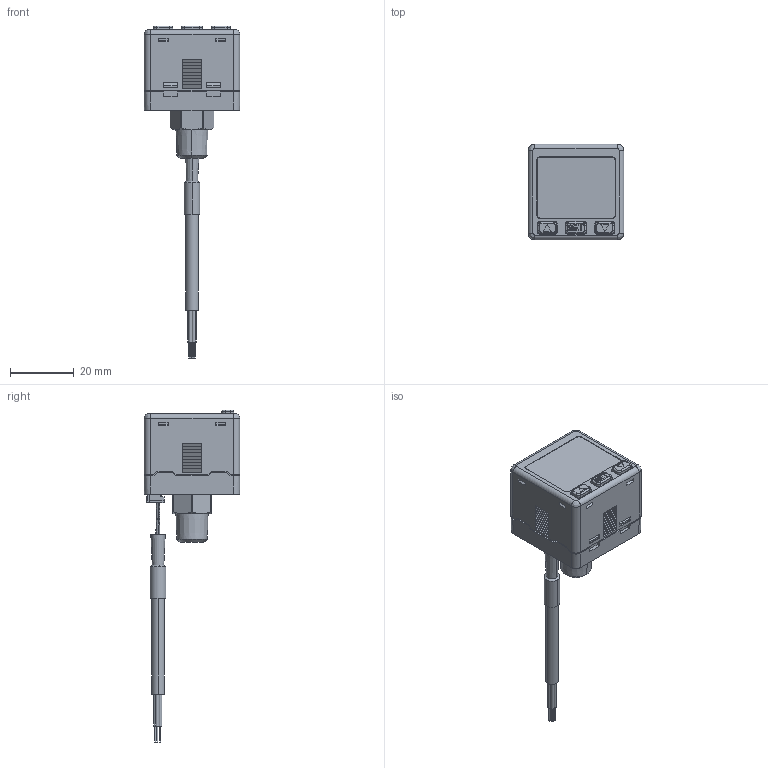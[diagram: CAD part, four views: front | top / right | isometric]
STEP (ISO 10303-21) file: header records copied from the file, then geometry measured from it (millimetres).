
FILE_DESCRIPTION(('STEP AP203'),'1');
FILE_NAME('-F2_3D.stp','2024-12-11T00:16:24',(' '),(' '),'Spatial InterOp 3D',' ',' ');
FILE_SCHEMA(('CONFIG_CONTROL_DESIGN'));
Length unit declared in the file: millimetre
Products named in the file (3): P70※-※※-F2; KP43V-04-F2-5
Assembly tree (2 placements, depth 2):
  P70※-※※-F2
    KP43V-04-F2-5
    KP43V-04-F2-5
Bounding box: 30.03 x 30 x 104.05 mm (x, y, z)
Surface area: 20403.5 mm2
Topology: 1 solids, 2297 shells, 2302 faces, 12233 edges, 12223 vertices
Faces by surface type: plane 1814, cylinder 313, cone 65, torus 46, bspline 44, sphere 20
Full cylindrical faces by diameter (mm): 3.6 x1, 7.1 x1
Entity records: 122535 total; most frequent: CARTESIAN_POINT 32480, DIRECTION 17528, ORIENTED_EDGE 12220, EDGE_CURVE 12214, VERTEX_POINT 12214, LINE 10410, VECTOR 10410, AXIS2_PLACEMENT_3D 3559
